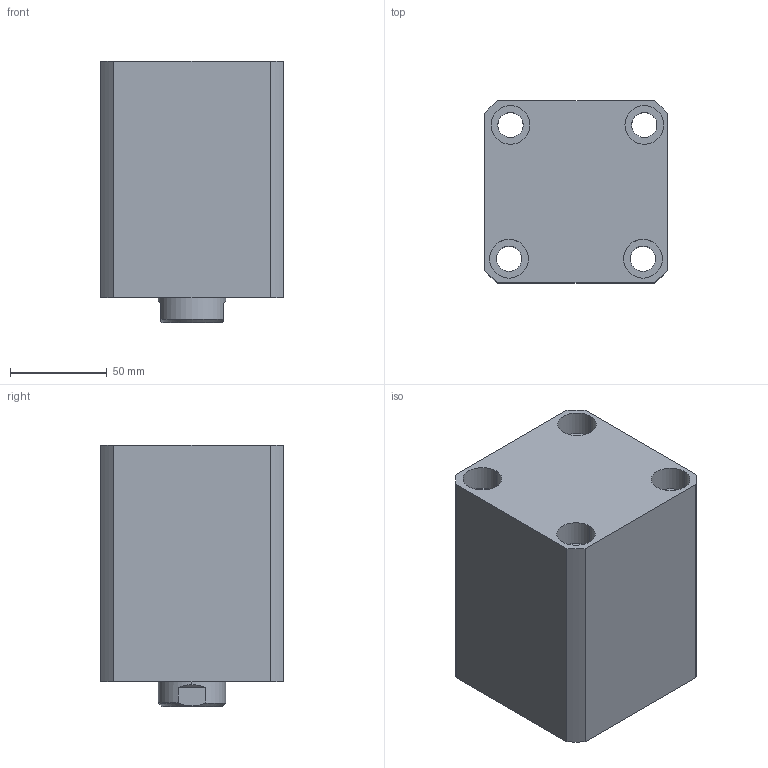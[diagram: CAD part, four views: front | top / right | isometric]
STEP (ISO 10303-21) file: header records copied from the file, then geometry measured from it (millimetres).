
FILE_DESCRIPTION (( 'STEP AP214' ), '1' );
FILE_NAME ('chtb-sdma63x55n_asm.STEP', '2018-05-16T02:32:10', ( 'Windows' ), ( 'Microsoft' ), 'SwSTEP 2.0', 'SolidWorks 2015', '' );
FILE_SCHEMA (( 'AUTOMOTIVE_DESIGN' ));
Length unit declared in the file: millimetre
Products named in the file (4): CHTB-SDMA63X55NBT; CHTB63X55NHSG; CHTB-63QG; chtb-sdma63x55n_asm
Assembly tree (3 placements, depth 2):
  chtb-sdma63x55n_asm
    CHTB-63QG
    CHTB63X55NHSG
    CHTB-SDMA63X55NBT
Bounding box: 94 x 94 x 135 mm (x, y, z)
Volume: 865735.7 mm3; surface area: 149835.7 mm2
Topology: 3 solids, 3 shells, 165 faces, 472 edges, 321 vertices
Faces by surface type: cylinder 107, plane 31, bspline 12, cone 8, torus 7
Entity records: 17727 total; most frequent: CARTESIAN_POINT 13576, ORIENTED_EDGE 932, DIRECTION 716, EDGE_CURVE 466, VERTEX_POINT 321, AXIS2_PLACEMENT_3D 288, EDGE_LOOP 197, ADVANCED_FACE 165
